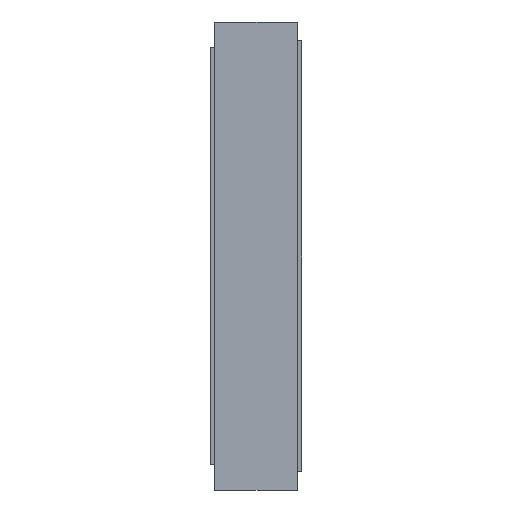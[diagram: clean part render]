
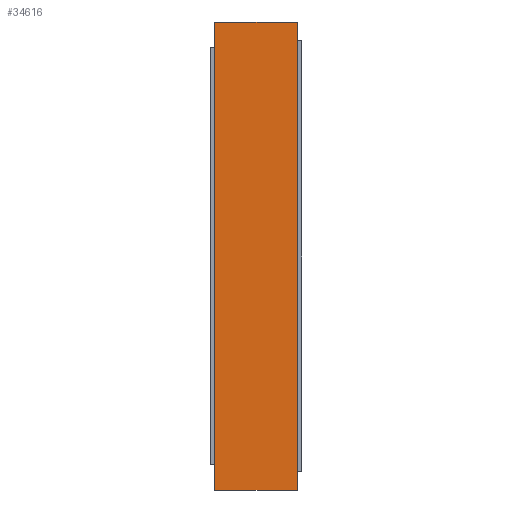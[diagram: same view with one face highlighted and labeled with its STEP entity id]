
A CAD part, left-side view. The second image highlights one B-rep face of the part: STEP entity #34616.
In plain terms, the highlighted planar face has unit normal (-1, 0, 0).
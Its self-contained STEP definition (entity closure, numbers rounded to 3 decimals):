
#368 = LINE ( 'NONE', #32103, #3061 ) ;
#636 = LINE ( 'NONE', #34754, #9695 ) ;
#3061 = VECTOR ( 'NONE', #20702, 1000. ) ;
#3686 = ORIENTED_EDGE ( 'NONE', *, *, #36135, .T. ) ;
#4408 = DIRECTION ( 'NONE',  ( 1., 0., 0. ) ) ;
#6123 = DIRECTION ( 'NONE',  ( 0., 0., 1. ) ) ;
#7401 = VECTOR ( 'NONE', #36065, 1000. ) ;
#8359 = CARTESIAN_POINT ( 'NONE',  ( -102.5, 0., -1.85 ) ) ;
#9003 = VERTEX_POINT ( 'NONE', #8359 ) ;
#9695 = VECTOR ( 'NONE', #6123, 1000. ) ;
#12032 = VERTEX_POINT ( 'NONE', #30903 ) ;
#14291 = VECTOR ( 'NONE', #22608, 1000. ) ;
#14306 = ORIENTED_EDGE ( 'NONE', *, *, #18544, .T. ) ;
#14343 = ORIENTED_EDGE ( 'NONE', *, *, #37001, .F. ) ;
#14761 = LINE ( 'NONE', #22341, #14291 ) ;
#15694 = AXIS2_PLACEMENT_3D ( 'NONE', #24681, #4408, #29986 ) ;
#17125 = FACE_OUTER_BOUND ( 'NONE', #18998, .T. ) ;
#17748 = CARTESIAN_POINT ( 'NONE',  ( -102.5, 0., 1.85 ) ) ;
#18543 = CARTESIAN_POINT ( 'NONE',  ( -102.5, 0.65, -1.85 ) ) ;
#18544 = EDGE_CURVE ( 'NONE', #30052, #9003, #14761, .T. ) ;
#18998 = EDGE_LOOP ( 'NONE', ( #3686, #32518, #14343, #14306 ) ) ;
#20702 = DIRECTION ( 'NONE',  ( 0., -1., 0. ) ) ;
#22341 = CARTESIAN_POINT ( 'NONE',  ( -102.5, 0.65, -1.85 ) ) ;
#22608 = DIRECTION ( 'NONE',  ( 0., -1., 0. ) ) ;
#24681 = CARTESIAN_POINT ( 'NONE',  ( -102.5, 0.65, -1.85 ) ) ;
#28278 = VERTEX_POINT ( 'NONE', #17748 ) ;
#29986 = DIRECTION ( 'NONE',  ( 0., 0., -1. ) ) ;
#30052 = VERTEX_POINT ( 'NONE', #18543 ) ;
#30482 = CARTESIAN_POINT ( 'NONE',  ( -102.5, 0., -1.85 ) ) ;
#30903 = CARTESIAN_POINT ( 'NONE',  ( -102.5, 0.65, 1.85 ) ) ;
#32103 = CARTESIAN_POINT ( 'NONE',  ( -102.5, 0.65, 1.85 ) ) ;
#32518 = ORIENTED_EDGE ( 'NONE', *, *, #34861, .F. ) ;
#33473 = LINE ( 'NONE', #30482, #7401 ) ;
#34616 = ADVANCED_FACE ( 'NONE', ( #17125 ), #36060, .F. ) ;
#34754 = CARTESIAN_POINT ( 'NONE',  ( -102.5, 0.65, -1.85 ) ) ;
#34861 = EDGE_CURVE ( 'NONE', #12032, #28278, #368, .T. ) ;
#36060 = PLANE ( 'NONE',  #15694 ) ;
#36065 = DIRECTION ( 'NONE',  ( 0., 0., 1. ) ) ;
#36135 = EDGE_CURVE ( 'NONE', #9003, #28278, #33473, .T. ) ;
#37001 = EDGE_CURVE ( 'NONE', #30052, #12032, #636, .T. ) ;
